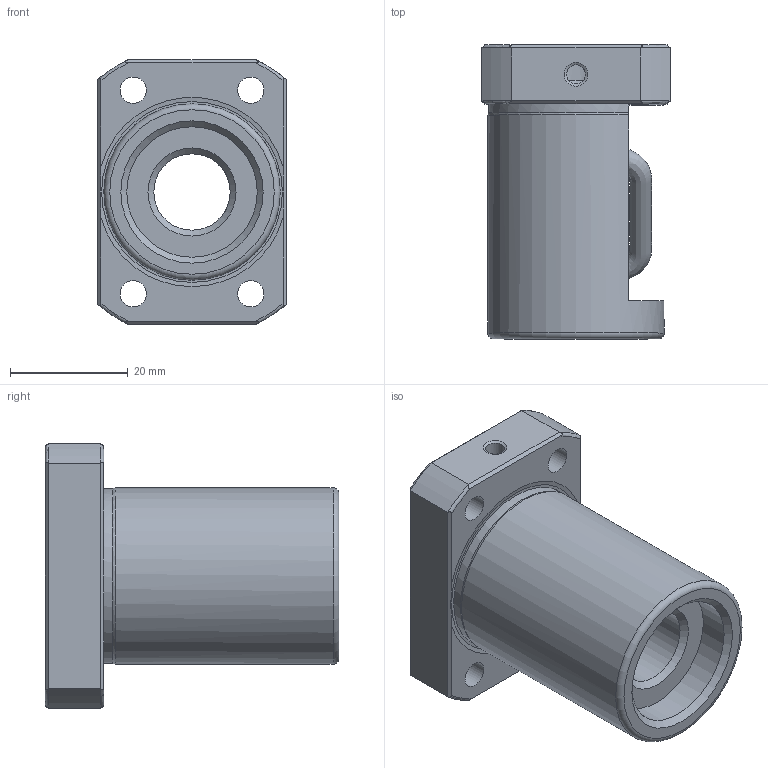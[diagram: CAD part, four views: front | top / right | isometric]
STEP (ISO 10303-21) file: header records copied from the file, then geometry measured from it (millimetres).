
FILE_DESCRIPTION(/* description */ ('Unknown'),/* implementation_level */ '2;1');
FILE_NAME(/* name */ '謙榮需要的1210-3D',/* time_stamp */ '2020-10-19T18:57:55+08:00',/* author */ ('Unknown'),/* organization */ ('Unknown'),/* preprocessor_version */ 'ST-DEVELOPER v16.7',/* originating_system */ 'DEX',/* authorisation */ $);
FILE_SCHEMA (('AUTOMOTIVE_DESIGN {1 0 10303 214 3 1 1}'));
Length unit declared in the file: millimetre
Products named in the file (1): 謙榮需要的121
Bounding box: 32 x 50 x 45 mm (x, y, z)
Volume: 27896.2 mm3; surface area: 11036.8 mm2
Topology: 1 solids, 1 shells, 74 faces, 192 edges, 118 vertices
Faces by surface type: plane 26, cylinder 23, cone 15, torus 9, bspline 1
Full cylindrical faces by diameter (mm): 2.013 x2, 3.242 x2, 4.5 x4, 4.917 x2, 8 x4, 13 x1, 22.2 x2, 29.8 x1, 30 x1
Entity records: 6053 total; most frequent: CARTESIAN_POINT 3958, DIRECTION 324, ORIENTED_EDGE 272, AXIS2_PLACEMENT_3D 145, EDGE_CURVE 136, FACE_BOUND 128, EDGE_LOOP 127, VERTEX_POINT 98
